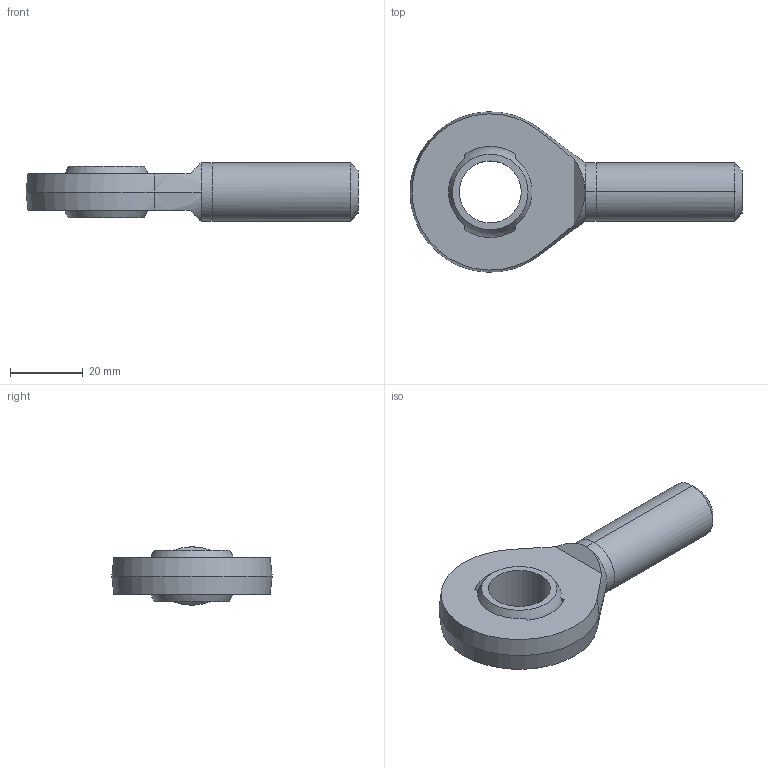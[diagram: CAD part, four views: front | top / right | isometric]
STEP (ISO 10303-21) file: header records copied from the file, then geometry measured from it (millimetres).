
FILE_DESCRIPTION (( 'STEP AP203' ), '1' );
FILE_NAME ('65860.W0517.step', '2014-02-06T11:41:02', ( 'User' ), ( '' ), 'SwSTEP 2.0', 'SolidWorks 2009', '' );
FILE_SCHEMA (( 'CONFIG_CONTROL_DESIGN' ));
Length unit declared in the file: millimetre
Products named in the file (3): Part1_65860.W0517; Part2_65860.W0517; 65860.W0517
Assembly tree (2 placements, depth 2):
  65860.W0517
    Part1_65860.W0517
    Part2_65860.W0517
Bounding box: 91 x 43.97 x 16 mm (x, y, z)
Volume: 22933.9 mm3; surface area: 8719.2 mm2
Topology: 2 solids, 2 shells, 35 faces, 82 edges, 51 vertices
Faces by surface type: plane 15, sphere 8, cylinder 8, cone 4
Entity records: 1357 total; most frequent: CARTESIAN_POINT 231, DIRECTION 196, ORIENTED_EDGE 160, AXIS2_PLACEMENT_3D 84, EDGE_CURVE 80, VERTEX_POINT 51, CIRCLE 44, EDGE_LOOP 41
